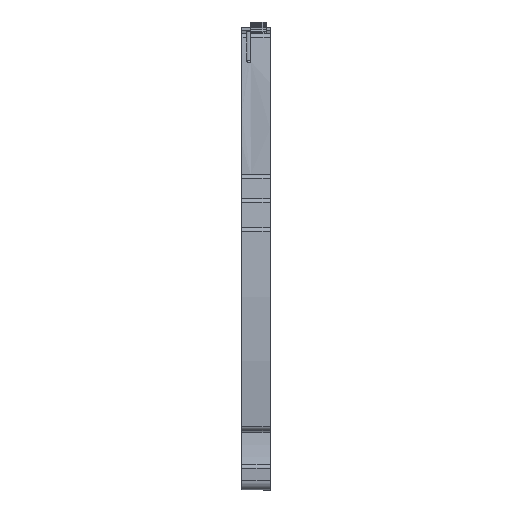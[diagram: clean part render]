
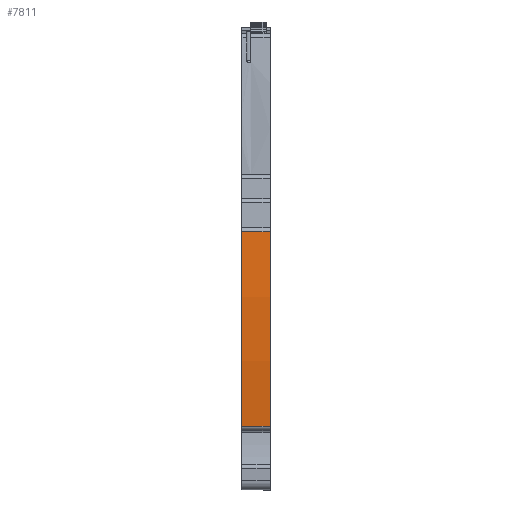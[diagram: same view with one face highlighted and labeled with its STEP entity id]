
A CAD part, front view. The second image highlights one B-rep face of the part: STEP entity #7811.
In plain terms, the highlighted cylindrical face has radius 202 mm (diameter 404 mm), a partial arc.
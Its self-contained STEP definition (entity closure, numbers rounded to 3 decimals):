
#733=AXIS2_PLACEMENT_3D('Circle Axis2P3D',#731,#732,$) ;
#4406=AXIS2_PLACEMENT_3D('Circle Axis2P3D',#4404,#4405,$) ;
#7798=AXIS2_PLACEMENT_3D('Cylinder Axis2P3D',#7795,#7796,#7797) ;
#728=CARTESIAN_POINT('Vertex',(5.95,0.609,53.828)) ;
#731=CARTESIAN_POINT('Axis2P3D Location',(5.95,202.,38.15)) ;
#735=CARTESIAN_POINT('Vertex',(5.95,1.531,13.327)) ;
#4401=CARTESIAN_POINT('Vertex',(0.,1.531,13.327)) ;
#4404=CARTESIAN_POINT('Axis2P3D Location',(0.,202.,38.15)) ;
#4408=CARTESIAN_POINT('Vertex',(0.,0.609,53.828)) ;
#7782=CARTESIAN_POINT('Line Origine',(1.94,0.609,53.828)) ;
#7795=CARTESIAN_POINT('Axis2P3D Location',(2.55,202.,38.15)) ;
#7800=CARTESIAN_POINT('Line Origine',(2.55,1.531,13.327)) ;
#732=DIRECTION('Axis2P3D Direction',(1.,0.,0.)) ;
#4405=DIRECTION('Axis2P3D Direction',(1.,0.,0.)) ;
#7783=DIRECTION('Vector Direction',(1.,0.,0.)) ;
#7796=DIRECTION('Axis2P3D Direction',(1.,0.,0.)) ;
#7797=DIRECTION('Axis2P3D XDirection',(0.,-0.997,0.082)) ;
#7801=DIRECTION('Vector Direction',(1.,0.,0.)) ;
#7784=VECTOR('Line Direction',#7783,1.) ;
#7802=VECTOR('Line Direction',#7801,1.) ;
#7806=ORIENTED_EDGE('',*,*,#7804,.F.) ;
#7807=ORIENTED_EDGE('',*,*,#737,.F.) ;
#7808=ORIENTED_EDGE('',*,*,#7786,.T.) ;
#7809=ORIENTED_EDGE('',*,*,#4410,.T.) ;
#7811=ADVANCED_FACE('KLEMME',(#7810),#7799,.T.) ;
#734=CIRCLE('generated circle',#733,202.) ;
#4407=CIRCLE('generated circle',#4406,202.) ;
#7799=CYLINDRICAL_SURFACE('generated cylinder',#7798,202.) ;
#737=EDGE_CURVE('',#729,#736,#734,.T.) ;
#4410=EDGE_CURVE('',#4409,#4402,#4407,.T.) ;
#7786=EDGE_CURVE('',#729,#4409,#7785,.F.) ;
#7804=EDGE_CURVE('',#736,#4402,#7803,.F.) ;
#7805=EDGE_LOOP('',(#7806,#7807,#7808,#7809)) ;
#7810=FACE_OUTER_BOUND('',#7805,.T.) ;
#7785=LINE('Line',#7782,#7784) ;
#7803=LINE('Line',#7800,#7802) ;
#729=VERTEX_POINT('',#728) ;
#736=VERTEX_POINT('',#735) ;
#4402=VERTEX_POINT('',#4401) ;
#4409=VERTEX_POINT('',#4408) ;
